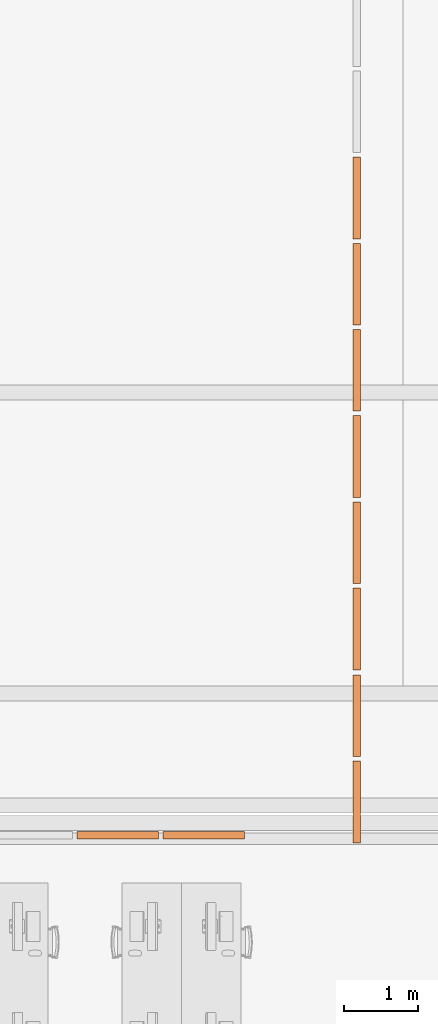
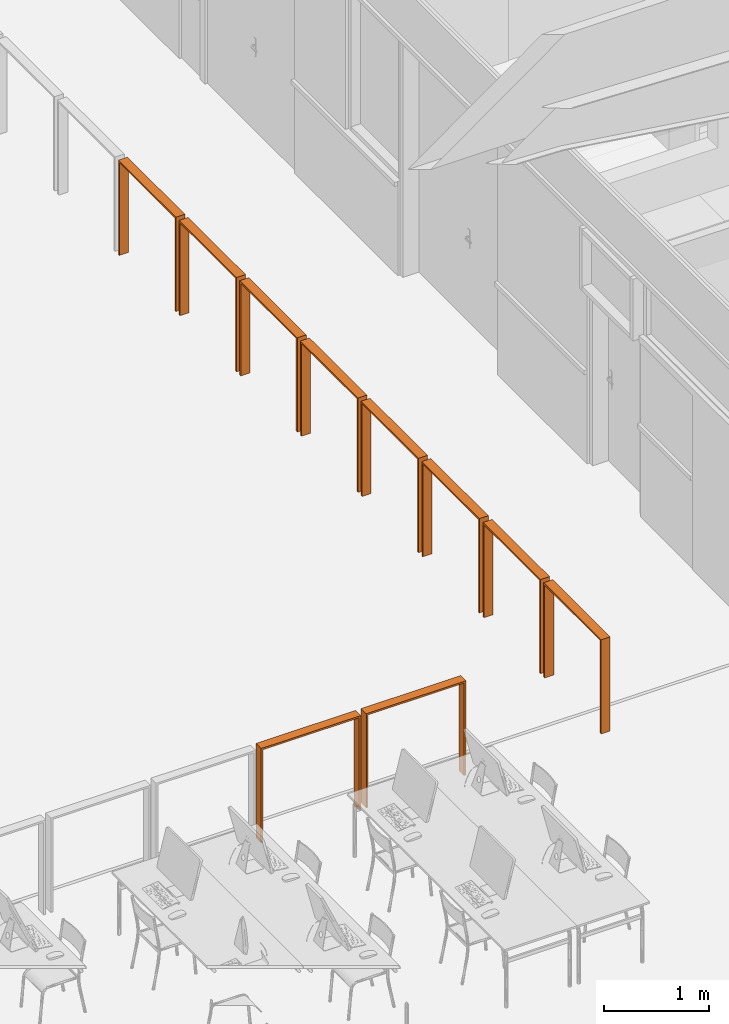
# One storey, part 134 of 137: 10 proxies.
"""IFC2X3 building model written with IfcOpenShell, lengths in centimetres."""

from ifc_helpers import new_model, entity, si_unit, converted_unit, derived_unit, direction, frame, origin, place, context, subcontext, project, spatial, polyline, outline, extrude, source, transform, mapped, type_object, type_shapes, element, save


model = new_model("IFC2X3")

# Units and contexts
model_context = context("Model", 3, precision=0.001, world=origin(), true_north=direction((6.12303176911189e-17, 1.0)))
body_context = subcontext(model_context, "Body", "Model", "MODEL_VIEW")
ifc_project = project(units=[si_unit("LENGTHUNIT", "METRE", prefix="CENTI"), si_unit("AREAUNIT", "SQUARE_METRE"), si_unit("VOLUMEUNIT", "CUBIC_METRE"), converted_unit("PLANEANGLEUNIT", "DEGREE", entity("IfcRatioMeasure", 0.0174532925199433), si_unit("PLANEANGLEUNIT", "RADIAN"), dimensions=[0, 0, 0, 0, 0, 0, 0]), si_unit("MASSUNIT", "GRAM", prefix="KILO"), si_unit("TIMEUNIT", "SECOND"), si_unit("FREQUENCYUNIT", "HERTZ"), si_unit("THERMODYNAMICTEMPERATUREUNIT", "DEGREE_CELSIUS"), derived_unit("THERMALTRANSMITTANCEUNIT", [(si_unit("MASSUNIT", "GRAM", prefix="KILO"), 1), (si_unit("THERMODYNAMICTEMPERATUREUNIT", "KELVIN"), -1), (si_unit("TIMEUNIT", "SECOND"), -3)]), derived_unit("VOLUMETRICFLOWRATEUNIT", [(si_unit("LENGTHUNIT", "METRE"), 3), (si_unit("TIMEUNIT", "SECOND"), -1)]), si_unit("ELECTRICCURRENTUNIT", "AMPERE"), si_unit("ELECTRICVOLTAGEUNIT", "VOLT"), si_unit("POWERUNIT", "WATT"), si_unit("FORCEUNIT", "NEWTON", prefix="KILO"), si_unit("ILLUMINANCEUNIT", "LUX"), si_unit("LUMINOUSFLUXUNIT", "LUMEN"), si_unit("LUMINOUSINTENSITYUNIT", "CANDELA"), derived_unit("USERDEFINED", [(si_unit("MASSUNIT", "GRAM", prefix="KILO"), -1), (si_unit("LENGTHUNIT", "METRE"), -2), (si_unit("TIMEUNIT", "SECOND"), 3), (si_unit("LUMINOUSFLUXUNIT", "LUMEN"), 1)]), derived_unit("LINEARVELOCITYUNIT", [(si_unit("LENGTHUNIT", "METRE"), 1), (si_unit("TIMEUNIT", "SECOND"), -1)]), si_unit("PRESSUREUNIT", "PASCAL"), derived_unit("USERDEFINED", [(si_unit("LENGTHUNIT", "METRE"), -2), (si_unit("MASSUNIT", "GRAM", prefix="KILO"), 1), (si_unit("TIMEUNIT", "SECOND"), -2)])], contexts=[model_context])

# Site, building, storey, space
site_placement = place(None, frame((8.62739174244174, -249.285249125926, 0.0)))
site = spatial("IfcSite", under=ifc_project, at=site_placement, Name="Default", CompositionType="ELEMENT")
building_placement = place(site_placement, origin())
building = spatial("IfcBuilding", under=site, at=building_placement, CompositionType="ELEMENT")
storey_placement = place(building_placement, origin())
storey = spatial("IfcBuildingStorey", under=building, at=storey_placement, Name="RDC", CompositionType="ELEMENT", Elevation=-8.82465566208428e-11)
space_1_placement = place(storey_placement, origin())
space_1 = spatial("IfcSpace", under=storey, at=space_1_placement, Name="083", CompositionType="ELEMENT", InteriorOrExteriorSpace="INTERNAL")

# Proxies
building_element_proxy_type = type_object("IfcBuildingElementProxyType", Name="garde-corps-demontable", PredefinedType="NOTDEFINED")
shared_shape = source(origin(), body_context, "Body", "SweptSolid", [
    extrude(outline(polyline([(-55.5, -55.0), (54.5, -55.0), (54.5000000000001, -53.0), (-53.5000000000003, -53.0), (-53.5, 53.0), (54.5, 53.0), (54.5000000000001, 55.0), (-55.5, 55.0), (-55.5, -55.0)])), frame((0.0, 55.0, 54.5000000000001), z_axis=(1.0, 0.0, 0.0), x_axis=(0.0, 0.0, -1.0)), (0.0, 0.0, 1.0), 10.0),
])
type_shapes(building_element_proxy_type, [shared_shape])
for number, where, name in (
    (1, (2816.9048277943, 4319.4797874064, 0.0), "garde-corps-demontable:garde-corps-demontable"),
    (2, (2816.9048277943, 4203.4797874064, 0.0), "garde-corps-demontable:garde-corps-demontable"),
    (3, (2816.9048277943, 4087.4797874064, 0.0), "garde-corps-demontable:garde-corps-demontable"),
    (4, (2816.9048277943, 3971.4797874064, 0.0), "garde-corps-demontable:garde-corps-demontable"),
    (5, (2816.9048277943, 3855.4797874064, 0.0), "garde-corps-demontable:garde-corps-demontable"),
    (6, (2816.9048277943, 3739.4797874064, 0.0), "garde-corps-demontable:garde-corps-demontable"),
    (7, (2816.9048277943, 3622.4797874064, 0.0), "garde-corps-demontable:garde-corps-demontable"),
    (8, (2816.9048277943, 3506.4797874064, 0.0), "garde-corps-demontable:garde-corps-demontable"),
):
    element("IfcBuildingElementProxy", number, at=place(space_1_placement, frame(where)), inside=space_1, type_object=building_element_proxy_type, Name=name, ObjectType="garde-corps-demontable", context=body_context, shape_type="MappedRepresentation", body=[
        mapped(shared_shape, transform((0.0, 0.0, 0.0), scale=1.0)),
    ])

# Space
space_2_placement = place(storey_placement, origin())
space_2 = spatial("IfcSpace", under=storey, at=space_2_placement, Name="089", CompositionType="ELEMENT", InteriorOrExteriorSpace="INTERNAL")

# Proxies
for number, where, z_axis, x_axis, name in (
    (9, (2670.78298082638, 3511.98020806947, 0.0), (0.0, 0.0, 1.0), (0.0, 1.0, 0.0), "garde-corps-demontable:garde-corps-demontable"),
    (10, (2554.78298082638, 3511.98020806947, 0.0), (0.0, 0.0, 1.0), (0.0, 1.0, 0.0), "garde-corps-demontable:garde-corps-demontable"),
):
    element("IfcBuildingElementProxy", number, at=place(space_2_placement, frame(where, z_axis=z_axis, x_axis=x_axis)), inside=space_2, type_object=building_element_proxy_type, Name=name, ObjectType="garde-corps-demontable", context=body_context, shape_type="MappedRepresentation", body=[
        mapped(shared_shape, transform((0.0, 0.0, 0.0), scale=1.0)),
    ])

save(model, "model.ifc")
